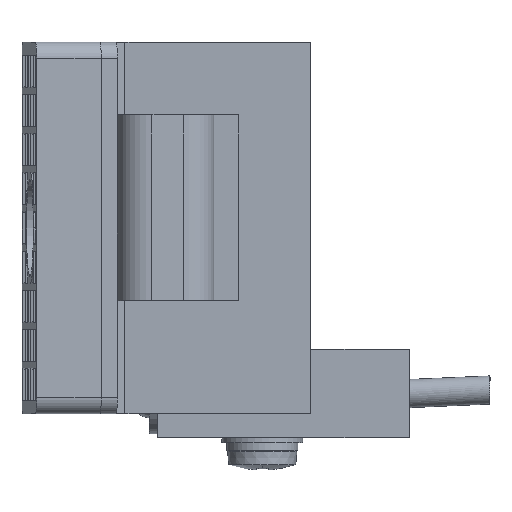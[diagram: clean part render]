
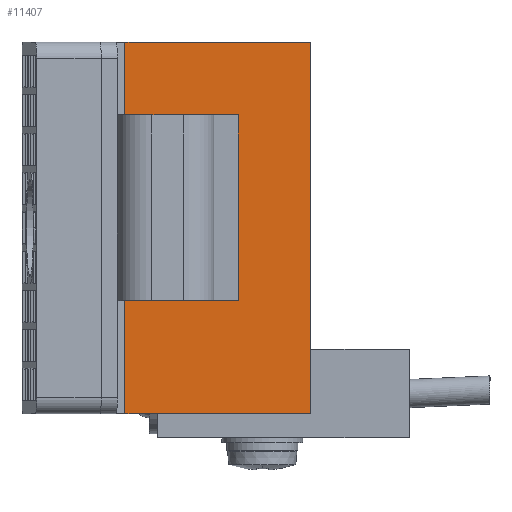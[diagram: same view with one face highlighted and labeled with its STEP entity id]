
A CAD part, front view. The second image highlights one B-rep face of the part: STEP entity #11407.
In plain terms, the highlighted planar face has unit normal (0, -1, 0).
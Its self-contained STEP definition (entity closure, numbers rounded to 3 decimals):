
#21 = LINE ( 'NONE', #2651, #13628 ) ;
#172 = FACE_OUTER_BOUND ( 'NONE', #848, .T. ) ;
#428 = CARTESIAN_POINT ( 'NONE',  ( -108.842, 18.253, -25. ) ) ;
#442 = VERTEX_POINT ( 'NONE', #9823 ) ;
#518 = VECTOR ( 'NONE', #13416, 1000. ) ;
#731 = LINE ( 'NONE', #7172, #6578 ) ;
#848 = EDGE_LOOP ( 'NONE', ( #8856, #2412, #6469, #6786, #13153, #2482, #13591, #4881 ) ) ;
#989 = VERTEX_POINT ( 'NONE', #14868 ) ;
#1097 = LINE ( 'NONE', #12028, #5674 ) ;
#1207 = VERTEX_POINT ( 'NONE', #428 ) ;
#1348 = CARTESIAN_POINT ( 'NONE',  ( -108.842, 18.253, -18. ) ) ;
#1425 = DIRECTION ( 'NONE',  ( 1., 0., 0. ) ) ;
#1773 = DIRECTION ( 'NONE',  ( 0., 1., 0. ) ) ;
#1901 = AXIS2_PLACEMENT_3D ( 'NONE', #7574, #1773, #2947 ) ;
#2412 = ORIENTED_EDGE ( 'NONE', *, *, #5628, .T. ) ;
#2482 = ORIENTED_EDGE ( 'NONE', *, *, #13723, .F. ) ;
#2620 = LINE ( 'NONE', #15127, #3720 ) ;
#2651 = CARTESIAN_POINT ( 'NONE',  ( -108.842, 18.253, -2. ) ) ;
#2947 = DIRECTION ( 'NONE',  ( 0., 0., 1. ) ) ;
#3432 = LINE ( 'NONE', #14367, #9688 ) ;
#3647 = CARTESIAN_POINT ( 'NONE',  ( -101.842, 18.253, -18. ) ) ;
#3720 = VECTOR ( 'NONE', #8023, 1000. ) ;
#4246 = PLANE ( 'NONE',  #1901 ) ;
#4380 = EDGE_CURVE ( 'NONE', #1207, #8969, #14273, .T. ) ;
#4835 = VECTOR ( 'NONE', #14377, 1000. ) ;
#4881 = ORIENTED_EDGE ( 'NONE', *, *, #8052, .F. ) ;
#4960 = DIRECTION ( 'NONE',  ( 0., 0., -1. ) ) ;
#4981 = VERTEX_POINT ( 'NONE', #13817 ) ;
#5249 = VERTEX_POINT ( 'NONE', #12809 ) ;
#5628 = EDGE_CURVE ( 'NONE', #5249, #9135, #14692, .T. ) ;
#5655 = VERTEX_POINT ( 'NONE', #12161 ) ;
#5674 = VECTOR ( 'NONE', #1425, 1000. ) ;
#6419 = LINE ( 'NONE', #3647, #12335 ) ;
#6469 = ORIENTED_EDGE ( 'NONE', *, *, #14895, .T. ) ;
#6578 = VECTOR ( 'NONE', #4960, 1000. ) ;
#6786 = ORIENTED_EDGE ( 'NONE', *, *, #4380, .T. ) ;
#7172 = CARTESIAN_POINT ( 'NONE',  ( -97.342, 18.253, -2.5 ) ) ;
#7574 = CARTESIAN_POINT ( 'NONE',  ( -108.842, 18.253, -2. ) ) ;
#8023 = DIRECTION ( 'NONE',  ( -1., 0., 0. ) ) ;
#8052 = EDGE_CURVE ( 'NONE', #989, #442, #2620, .T. ) ;
#8856 = ORIENTED_EDGE ( 'NONE', *, *, #13233, .F. ) ;
#8969 = VERTEX_POINT ( 'NONE', #12434 ) ;
#9135 = VERTEX_POINT ( 'NONE', #1348 ) ;
#9688 = VECTOR ( 'NONE', #10786, 1000. ) ;
#9823 = CARTESIAN_POINT ( 'NONE',  ( -108.842, 18.253, -6.5 ) ) ;
#10786 = DIRECTION ( 'NONE',  ( 0., 0., -1. ) ) ;
#11407 = ADVANCED_FACE ( 'NONE', ( #172 ), #4246, .F. ) ;
#12028 = CARTESIAN_POINT ( 'NONE',  ( -108.842, 18.253, -2. ) ) ;
#12161 = CARTESIAN_POINT ( 'NONE',  ( -97.342, 18.253, -2. ) ) ;
#12238 = CARTESIAN_POINT ( 'NONE',  ( -108.842, 18.253, -25. ) ) ;
#12335 = VECTOR ( 'NONE', #14292, 1000. ) ;
#12434 = CARTESIAN_POINT ( 'NONE',  ( -97.342, 18.253, -25. ) ) ;
#12809 = CARTESIAN_POINT ( 'NONE',  ( -101.842, 18.253, -18. ) ) ;
#13132 = DIRECTION ( 'NONE',  ( 0., 0., -1. ) ) ;
#13153 = ORIENTED_EDGE ( 'NONE', *, *, #13814, .F. ) ;
#13233 = EDGE_CURVE ( 'NONE', #5249, #989, #6419, .T. ) ;
#13416 = DIRECTION ( 'NONE',  ( -1., 0., 0. ) ) ;
#13569 = CARTESIAN_POINT ( 'NONE',  ( -101.842, 18.253, -18. ) ) ;
#13591 = ORIENTED_EDGE ( 'NONE', *, *, #13769, .T. ) ;
#13628 = VECTOR ( 'NONE', #13132, 1000. ) ;
#13723 = EDGE_CURVE ( 'NONE', #4981, #5655, #1097, .T. ) ;
#13769 = EDGE_CURVE ( 'NONE', #4981, #442, #21, .T. ) ;
#13814 = EDGE_CURVE ( 'NONE', #5655, #8969, #731, .T. ) ;
#13817 = CARTESIAN_POINT ( 'NONE',  ( -108.842, 18.253, -2. ) ) ;
#14273 = LINE ( 'NONE', #12238, #4835 ) ;
#14292 = DIRECTION ( 'NONE',  ( 0., 0., 1. ) ) ;
#14367 = CARTESIAN_POINT ( 'NONE',  ( -108.842, 18.253, -2. ) ) ;
#14377 = DIRECTION ( 'NONE',  ( 1., 0., 0. ) ) ;
#14692 = LINE ( 'NONE', #13569, #518 ) ;
#14868 = CARTESIAN_POINT ( 'NONE',  ( -101.842, 18.253, -6.5 ) ) ;
#14895 = EDGE_CURVE ( 'NONE', #9135, #1207, #3432, .T. ) ;
#15127 = CARTESIAN_POINT ( 'NONE',  ( -101.842, 18.253, -6.5 ) ) ;
